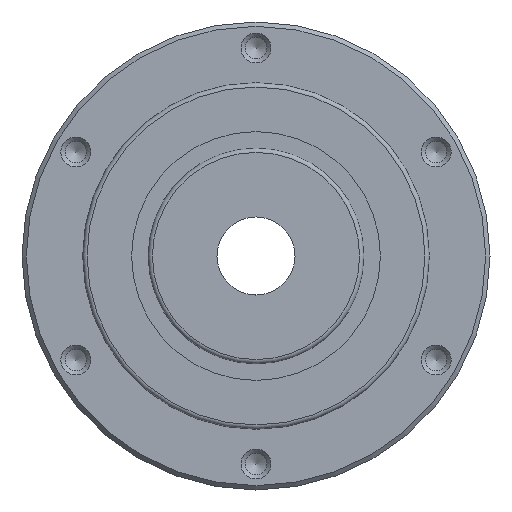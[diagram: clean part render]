
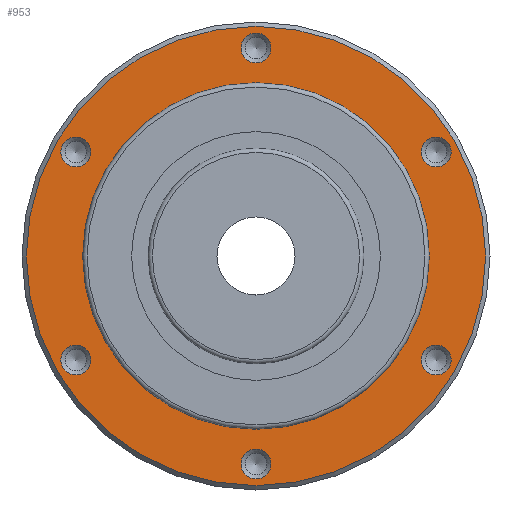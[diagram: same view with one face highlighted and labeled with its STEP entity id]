
A CAD part, left-side view. The second image highlights one B-rep face of the part: STEP entity #953.
In plain terms, the highlighted planar face has unit normal (-1, 0, 0).
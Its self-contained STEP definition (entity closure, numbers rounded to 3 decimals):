
#52=PLANE('',#1032);
#83=ORIENTED_EDGE('',*,*,#186,.T.);
#84=ORIENTED_EDGE('',*,*,#187,.T.);
#85=ORIENTED_EDGE('',*,*,#188,.T.);
#86=ORIENTED_EDGE('',*,*,#189,.T.);
#87=ORIENTED_EDGE('',*,*,#190,.T.);
#88=ORIENTED_EDGE('',*,*,#191,.T.);
#89=ORIENTED_EDGE('',*,*,#192,.T.);
#90=ORIENTED_EDGE('',*,*,#185,.F.);
#185=EDGE_CURVE('',#238,#238,#297,.T.);
#186=EDGE_CURVE('',#239,#239,#298,.T.);
#187=EDGE_CURVE('',#240,#240,#299,.T.);
#188=EDGE_CURVE('',#241,#241,#300,.T.);
#189=EDGE_CURVE('',#242,#242,#301,.T.);
#190=EDGE_CURVE('',#243,#243,#302,.T.);
#191=EDGE_CURVE('',#244,#244,#303,.T.);
#192=EDGE_CURVE('',#245,#245,#304,.T.);
#238=VERTEX_POINT('',#1373);
#239=VERTEX_POINT('',#1376);
#240=VERTEX_POINT('',#1378);
#241=VERTEX_POINT('',#1380);
#242=VERTEX_POINT('',#1382);
#243=VERTEX_POINT('',#1384);
#244=VERTEX_POINT('',#1386);
#245=VERTEX_POINT('',#1388);
#297=CIRCLE('',#1031,40.);
#298=CIRCLE('',#1033,3.459);
#299=CIRCLE('',#1034,3.459);
#300=CIRCLE('',#1035,3.459);
#301=CIRCLE('',#1036,3.459);
#302=CIRCLE('',#1037,3.459);
#303=CIRCLE('',#1038,3.459);
#304=CIRCLE('',#1039,53.);
#354=EDGE_LOOP('',(#83));
#355=EDGE_LOOP('',(#84));
#356=EDGE_LOOP('',(#85));
#357=EDGE_LOOP('',(#86));
#358=EDGE_LOOP('',(#87));
#359=EDGE_LOOP('',(#88));
#360=EDGE_LOOP('',(#89));
#361=EDGE_LOOP('',(#90));
#460=FACE_BOUND('',#354,.T.);
#461=FACE_BOUND('',#355,.T.);
#462=FACE_BOUND('',#356,.T.);
#463=FACE_BOUND('',#357,.T.);
#464=FACE_BOUND('',#358,.T.);
#465=FACE_BOUND('',#359,.T.);
#466=FACE_BOUND('',#360,.T.);
#467=FACE_BOUND('',#361,.T.);
#953=ADVANCED_FACE('',(#460,#461,#462,#463,#464,#465,#466,#467),#52,.T.);
#1031=AXIS2_PLACEMENT_3D('',#1372,#1171,#1172);
#1032=AXIS2_PLACEMENT_3D('',#1374,#1173,#1174);
#1033=AXIS2_PLACEMENT_3D('',#1375,#1175,#1176);
#1034=AXIS2_PLACEMENT_3D('',#1377,#1177,#1178);
#1035=AXIS2_PLACEMENT_3D('',#1379,#1179,#1180);
#1036=AXIS2_PLACEMENT_3D('',#1381,#1181,#1182);
#1037=AXIS2_PLACEMENT_3D('',#1383,#1183,#1184);
#1038=AXIS2_PLACEMENT_3D('',#1385,#1185,#1186);
#1039=AXIS2_PLACEMENT_3D('',#1387,#1187,#1188);
#1171=DIRECTION('',(-1.,0.,0.));
#1172=DIRECTION('',(0.,0.,1.));
#1173=DIRECTION('',(-1.,0.,0.));
#1174=DIRECTION('',(0.,0.,1.));
#1175=DIRECTION('',(1.,0.,0.));
#1176=DIRECTION('',(0.,-0.5,0.866));
#1177=DIRECTION('',(1.,0.,0.));
#1178=DIRECTION('',(0.,0.5,0.866));
#1179=DIRECTION('',(1.,0.,0.));
#1180=DIRECTION('',(0.,1.,0.));
#1181=DIRECTION('',(1.,0.,0.));
#1182=DIRECTION('',(0.,0.5,-0.866));
#1183=DIRECTION('',(1.,0.,0.));
#1184=DIRECTION('',(0.,-0.5,-0.866));
#1185=DIRECTION('',(1.,0.,0.));
#1186=DIRECTION('',(0.,-1.,0.));
#1187=DIRECTION('',(-1.,0.,0.));
#1188=DIRECTION('',(0.,0.,1.));
#1372=CARTESIAN_POINT('',(12.2,0.,0.));
#1373=CARTESIAN_POINT('',(12.2,0.,40.));
#1374=CARTESIAN_POINT('',(12.2,0.,40.));
#1375=CARTESIAN_POINT('',(12.2,41.569,24.));
#1376=CARTESIAN_POINT('',(12.2,39.84,26.995));
#1377=CARTESIAN_POINT('',(12.2,41.569,-24.));
#1378=CARTESIAN_POINT('',(12.2,43.298,-21.005));
#1379=CARTESIAN_POINT('',(12.2,0.,-48.));
#1380=CARTESIAN_POINT('',(12.2,3.459,-48.));
#1381=CARTESIAN_POINT('',(12.2,-41.569,-24.));
#1382=CARTESIAN_POINT('',(12.2,-39.84,-26.995));
#1383=CARTESIAN_POINT('',(12.2,-41.569,24.));
#1384=CARTESIAN_POINT('',(12.2,-43.298,21.005));
#1385=CARTESIAN_POINT('',(12.2,0.,48.));
#1386=CARTESIAN_POINT('',(12.2,-3.459,48.));
#1387=CARTESIAN_POINT('',(12.2,0.,0.));
#1388=CARTESIAN_POINT('',(12.2,0.,53.));
